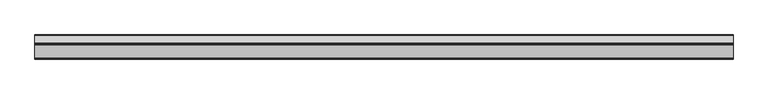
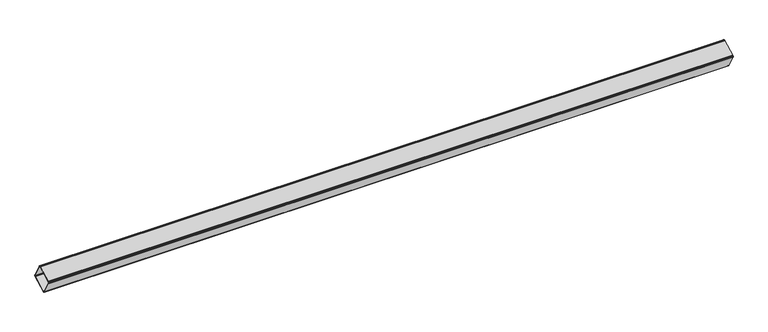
"""IFC4 building model written with IfcOpenShell, lengths in millimetres: beam geometry, Buton 158392 : Buton 158392."""

from ifc_helpers import new_model, si_unit, frame, origin, place, context, project, spatial, polyline, outline, extrude, source, transform, mapped, element, save


def beam_6ff974c0(model_context):
    return source(origin(), model_context, "Body", "SweptSolid", [
        extrude(outline(polyline([(-16297.5277892, 10145.6096056), (-16224.153053, 10186.501513), (-16221.8030118, 10187.3629491), (-16219.3017914, 10187.4560209), (-16216.8942286, 10186.7716177), (-16214.8159926, 10185.3767339), (-16213.2705155, 10183.4079103), (-16172.3786081, 10110.0331741), (-16171.517172, 10107.6831329), (-16171.4241002, 10105.1819125), (-16172.1085034, 10102.7743498), (-16173.5033872, 10100.6961137), (-16175.4722108, 10099.1506366), (-16248.846947, 10058.2587292), (-16251.1969882, 10057.3972931), (-16253.6982086, 10057.3042213), (-16256.1057714, 10057.9886245), (-16258.1840074, 10059.3835083), (-16259.7294845, 10061.3523319), (-16300.6213919, 10134.7270681), (-16301.482828, 10137.0771093), (-16301.5758998, 10139.5783297), (-16300.8914966, 10141.9858925), (-16299.4966128, 10144.0641285), (-16297.5277892, 10145.6096056)]), holes=[polyline([(-16297.1273569, 10136.6743018), (-16256.2354494, 10063.2995656), (-16255.4627109, 10062.3151538), (-16254.4235929, 10061.6177119), (-16253.2198115, 10061.2755103), (-16251.9692013, 10061.3220462), (-16250.7941807, 10061.7527643), (-16177.4194445, 10102.6446717), (-16176.4350327, 10103.4174102), (-16175.7375908, 10104.4565283), (-16175.3953892, 10105.6603096), (-16175.4419251, 10106.9109198), (-16175.8726431, 10108.0859404), (-16216.7645506, 10181.4606766), (-16217.5372891, 10182.4450884), (-16218.5764071, 10183.1425303), (-16219.7801885, 10183.4847319), (-16221.0307987, 10183.438196), (-16222.2058193, 10183.007478), (-16295.5805555, 10142.1155705), (-16296.5649673, 10141.342832), (-16297.2624092, 10140.303714), (-16297.6046108, 10139.0999326), (-16297.5580749, 10137.8493224), (-16297.1273569, 10136.6743018)])]), frame((11572.2815707, 0.0, 0.0), z_axis=(1.0, 0.0, 0.0), x_axis=(0.0, 1.0, 0.0)), (0.0, 0.0, 1.0), 3767.7184292),
    ])


if __name__ == "__main__":
    model = new_model("IFC4")
    model_context = context("Model", 3, world=origin())
    ifc_project = project(units=[si_unit("LENGTHUNIT", "METRE", prefix="MILLI")], contexts=[model_context])
    site = spatial("IfcSite", under=ifc_project)
    building = spatial("IfcBuilding", under=site)
    placement = place(None, origin())
    beam_shape = beam_6ff974c0(model_context)
    element("IfcBeam", 1, ObjectType="Buton 158392 : Buton 158392", at=placement, inside=building, context=model_context, shape_type="MappedRepresentation", body=[
        mapped(beam_shape, transform((0.0, 0.0, 0.0), x_axis=(1.0, 0.0, 0.0), y_axis=(0.0, 1.0, 0.0), z_axis=(0.0, 0.0, 1.0))),
    ])
    save(model, "model.ifc")
